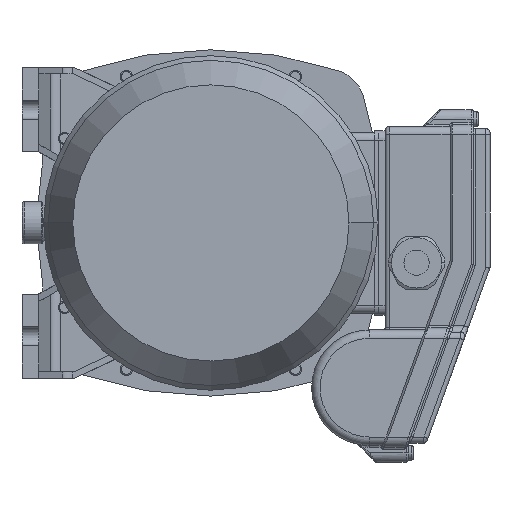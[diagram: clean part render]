
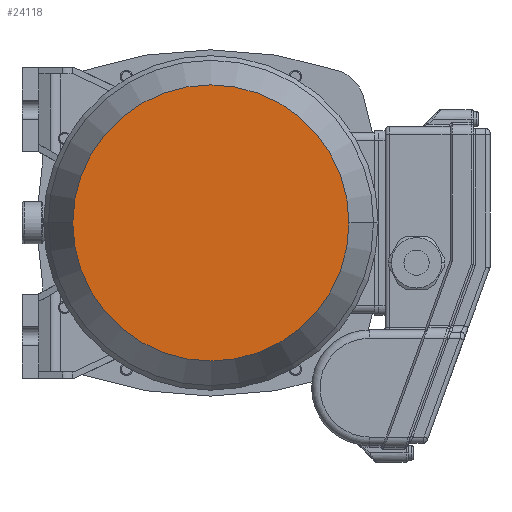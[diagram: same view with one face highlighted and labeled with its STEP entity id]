
A CAD part, front view. The second image highlights one B-rep face of the part: STEP entity #24118.
In plain terms, the highlighted planar face has unit normal (0, -1, 0) as drawn and (1, 0, 0) by its records, which use the part's own axes.
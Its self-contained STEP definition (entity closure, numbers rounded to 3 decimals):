
#18211=CARTESIAN_POINT('',(203.,0.,0.));
#18212=DIRECTION('',(-1.,0.,0.));
#18213=DIRECTION('',(0.,1.,0.));
#18214=AXIS2_PLACEMENT_3D('',#18211,#18212,#18213);
#18219=CARTESIAN_POINT('',(203.,0.,0.));
#18220=DIRECTION('',(1.,0.,0.));
#18221=DIRECTION('',(0.,1.,0.));
#18222=AXIS2_PLACEMENT_3D('',#18219,#18220,#18221);
#19527=CARTESIAN_POINT('',(203.,65.794,0.));
#19529=VERTEX_POINT('',#19527);
#19537=CARTESIAN_POINT('',(203.,-65.794,0.));
#19539=VERTEX_POINT('',#19537);
#24109=CARTESIAN_POINT('',(203.,0.,0.));
#24110=DIRECTION('',(1.,0.,0.));
#24111=DIRECTION('',(0.,-1.,0.));
#24112=AXIS2_PLACEMENT_3D('',#24109,#24110,#24111);
#24113=PLANE('',#24112);
#24114=ORIENTED_EDGE('',*,*,#24091,.T.);
#24115=ORIENTED_EDGE('',*,*,#24102,.F.);
#24116=EDGE_LOOP('',(#24114,#24115));
#24117=FACE_OUTER_BOUND('',#24116,.F.);
#18215=CIRCLE('',#18214,65.794);
#18223=CIRCLE('',#18222,65.794);
#24091=EDGE_CURVE('',#19529,#19539,#18215,.T.);
#24102=EDGE_CURVE('',#19529,#19539,#18223,.T.);
#24118=ADVANCED_FACE('',(#24117),#24113,.T.);
